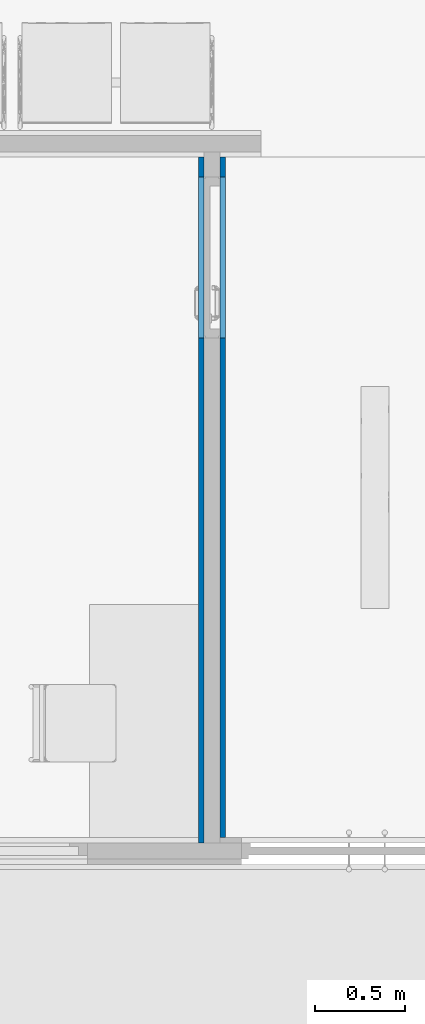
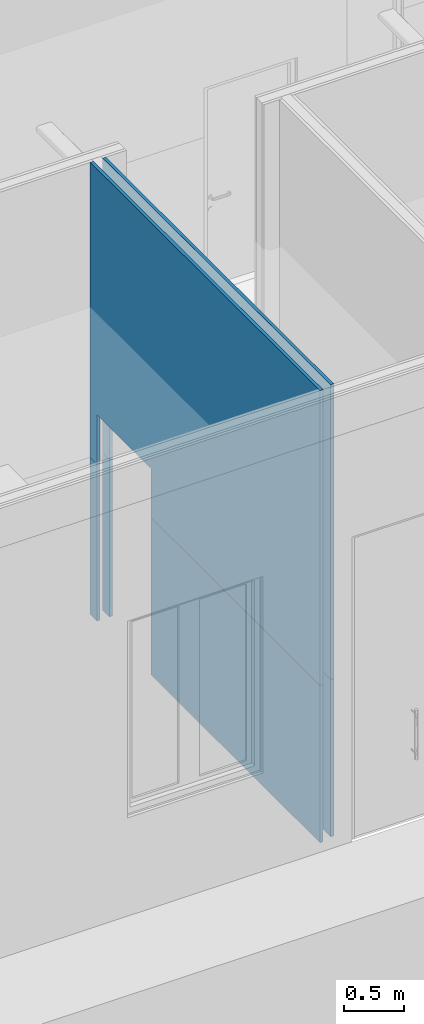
# One storey, part 9 of 155: 4 walls, 4 openings.
"""IFC2X3 building model written with IfcOpenShell, lengths in metres."""

from ifc_helpers import new_model, entity, si_unit, converted_unit, derived_unit, direction, frame, frame_2d, origin, place, context, subcontext, project, spatial, rectangle, extrude, material, layer, layer_set, layer_usage, type_object, element, save


model = new_model("IFC2X3")

# Units and contexts
model_context = context("Model", 3, precision=1e-05, world=origin(), true_north=direction((6.12303176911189e-17, 1.0)))
body_context = subcontext(model_context, "Body", "Model", "MODEL_VIEW")
ifc_project = project(units=[si_unit("LENGTHUNIT", "METRE"), si_unit("AREAUNIT", "SQUARE_METRE"), si_unit("VOLUMEUNIT", "CUBIC_METRE"), converted_unit("PLANEANGLEUNIT", "DEGREE", entity("IfcRatioMeasure", 0.0174532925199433), si_unit("PLANEANGLEUNIT", "RADIAN"), dimensions=[0, 0, 0, 0, 0, 0, 0]), si_unit("MASSUNIT", "GRAM", prefix="KILO"), derived_unit("MASSDENSITYUNIT", [(si_unit("MASSUNIT", "GRAM", prefix="KILO"), 1), (si_unit("LENGTHUNIT", "METRE"), -3)]), si_unit("TIMEUNIT", "SECOND"), si_unit("FREQUENCYUNIT", "HERTZ"), si_unit("THERMODYNAMICTEMPERATUREUNIT", "DEGREE_CELSIUS"), derived_unit("THERMALTRANSMITTANCEUNIT", [(si_unit("MASSUNIT", "GRAM", prefix="KILO"), 1), (si_unit("THERMODYNAMICTEMPERATUREUNIT", "KELVIN"), -1), (si_unit("TIMEUNIT", "SECOND"), -3)]), derived_unit("VOLUMETRICFLOWRATEUNIT", [(si_unit("LENGTHUNIT", "METRE"), 3), (si_unit("TIMEUNIT", "SECOND"), -1)]), si_unit("ELECTRICCURRENTUNIT", "AMPERE"), si_unit("ELECTRICVOLTAGEUNIT", "VOLT"), si_unit("POWERUNIT", "WATT"), si_unit("FORCEUNIT", "NEWTON", prefix="KILO"), si_unit("ILLUMINANCEUNIT", "LUX"), si_unit("LUMINOUSFLUXUNIT", "LUMEN"), si_unit("LUMINOUSINTENSITYUNIT", "CANDELA"), derived_unit("USERDEFINED", [(si_unit("MASSUNIT", "GRAM", prefix="KILO"), -1), (si_unit("LENGTHUNIT", "METRE"), -2), (si_unit("TIMEUNIT", "SECOND"), 3), (si_unit("LUMINOUSFLUXUNIT", "LUMEN"), 1)]), derived_unit("LINEARVELOCITYUNIT", [(si_unit("LENGTHUNIT", "METRE"), 1), (si_unit("TIMEUNIT", "SECOND"), -1)]), si_unit("PRESSUREUNIT", "PASCAL"), derived_unit("USERDEFINED", [(si_unit("LENGTHUNIT", "METRE"), -2), (si_unit("MASSUNIT", "GRAM", prefix="KILO"), 1), (si_unit("TIMEUNIT", "SECOND"), -2)])], contexts=[model_context])

# Site, building, storey
site_placement = place(None, frame((26.9889013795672, -17.5624287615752, 0.0)))
site = spatial("IfcSite", under=ifc_project, at=site_placement, Name="Default", CompositionType="ELEMENT")
building_placement = place(site_placement, origin())
building = spatial("IfcBuilding", under=site, at=building_placement, Name="C. C. L. Monsenhor Antônio Sampaio", CompositionType="ELEMENT")
storey_placement = place(building_placement, frame((0.0, 0.0, 1.19999999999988)))
storey = spatial("IfcBuildingStorey", under=building, at=storey_placement, Name="Nível 1.2", CompositionType="ELEMENT", Elevation=1.19999999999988)

# Wall, opening
ifc_material_1 = material(Name=".CERÂMICA 10x10 BRANCA")
ifc_layer_1 = layer(ifc_material_1, 0.0035)
ifc_material_2 = material(Name="Argamassa Colante")
ifc_layer_2 = layer(ifc_material_2, 0.02)
ifc_material_3 = material(Name="4")
ifc_layer_3 = layer(ifc_material_3, 0.0015)
ifc_material_4 = material(Name="3")
ifc_layer_4 = layer(ifc_material_4, 0.005)
ifc_layer_set_1 = layer_set([ifc_layer_1, ifc_layer_2, ifc_layer_3, ifc_layer_4], Name="Parede básica:ECeramica branca 10x10cm")
ifc_layer_usage_1 = layer_usage(ifc_layer_set_1, "AXIS2", "POSITIVE", -0.015)
wall_type_1 = type_object("IfcWallType", Name="Parede básica:ECeramica branca 10x10cm", PredefinedType="STANDARD", material=ifc_layer_set_1)
wall_1_placement = place(storey_placement, frame((-2.17555229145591, -35.5030663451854, 0.0), z_axis=(0.0, 0.0, 1.0), x_axis=(0.0, -1.0, 0.0)))
wall_1 = element("IfcWallStandardCase", 1, at=wall_1_placement, inside=storey, type_object=wall_type_1, material=ifc_layer_usage_1, Name="Parede básica:ECeramica branca 10x10cm", ObjectType="Parede básica:ECeramica branca 10x10cm", context=body_context, shape_type="SweptSolid", body=[
    extrude(rectangle(XDim=3.83000000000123, YDim=0.0300000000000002, at=frame_2d((1.91500000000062, 0.0), x_axis=(-1.0, 0.0))), origin(), (0.0, 0.0, 1.0), 1.6),
])
opening_1_placement = place(wall_1_placement, origin())
element("IfcOpeningElement", 2, at=opening_1_placement, cuts=wall_1, Name="Parede básica:ECeramica branca 10x10cm", ObjectType="Opening", context=body_context, shape_type="SweptSolid", body=[
    extrude(rectangle(XDim=2.09999999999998, YDim=0.899999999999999, at=frame_2d((-3.33066907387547e-16, 2.16493489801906e-15), x_axis=(1.0, 0.0))), frame((0.55999999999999, -1.509, 1.04999999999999), z_axis=(0.0, 1.0, 0.0), x_axis=(0.0, 0.0, 1.0)), (0.0, 0.0, 1.0), 3.048),
])

ifc_layer_usage_2 = layer_usage(ifc_layer_set_1, "AXIS2", "POSITIVE", -0.015)
wall_2_placement = place(storey_placement, frame((-2.05555229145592, -39.3030663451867, 0.0), z_axis=(0.0, 0.0, 1.0), x_axis=(0.0, 1.0, 0.0)))
wall_2 = element("IfcWallStandardCase", 3, at=wall_2_placement, inside=storey, type_object=wall_type_1, material=ifc_layer_usage_2, Name="Parede básica:ECeramica branca 10x10cm", ObjectType="Parede básica:ECeramica branca 10x10cm", context=body_context, shape_type="SweptSolid", body=[
    extrude(rectangle(XDim=3.80000000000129, YDim=0.0300000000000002, at=frame_2d((1.90000000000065, -4.85722573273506e-17), x_axis=(-1.0, 0.0))), origin(), (0.0, 0.0, 1.0), 1.6),
])
opening_2_placement = place(wall_2_placement, origin())
element("IfcOpeningElement", 4, at=opening_2_placement, cuts=wall_2, Name="Parede básica:ECeramica branca 10x10cm", ObjectType="Opening", context=body_context, shape_type="SweptSolid", body=[
    extrude(rectangle(XDim=2.09999999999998, YDim=0.899999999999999, at=frame_2d((2.16493489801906e-15, 0.0), x_axis=(0.0, 1.0))), frame((3.24000000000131, -1.419, 1.04999999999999), z_axis=(0.0, 1.0, 0.0), x_axis=(-1.0, 0.0, 0.0)), (0.0, 0.0, 1.0), 3.048),
])

ifc_material_5 = material(Name="Acabamento Branco")
ifc_layer_5 = layer(ifc_material_5, 0.0035)
ifc_material_6 = material(Name="Massa corrida")
ifc_layer_6 = layer(ifc_material_6, 0.02)
ifc_layer_7 = layer(ifc_material_3, 0.0015)
ifc_layer_8 = layer(ifc_material_4, 0.005)
ifc_layer_set_2 = layer_set([ifc_layer_5, ifc_layer_6, ifc_layer_7, ifc_layer_8], Name="Parede básica:EPintura Branca")
ifc_layer_usage_3 = layer_usage(ifc_layer_set_2, "AXIS2", "POSITIVE", -0.015)
wall_type_2 = type_object("IfcWallType", Name="Parede básica:EPintura Branca", PredefinedType="STANDARD", material=ifc_layer_set_2)
wall_3_placement = place(storey_placement, frame((-2.17555229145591, -35.5030663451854, 1.6), z_axis=(0.0, 0.0, 1.0), x_axis=(0.0, -1.0, 0.0)))
wall_3 = element("IfcWallStandardCase", 5, at=wall_3_placement, inside=storey, type_object=wall_type_2, material=ifc_layer_usage_3, Name="Parede básica:EPintura Branca", ObjectType="Parede básica:EPintura Branca", context=body_context, shape_type="SweptSolid", body=[
    extrude(rectangle(XDim=3.83000000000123, YDim=0.0300000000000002, at=frame_2d((1.91500000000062, 0.0), x_axis=(-1.0, 0.0))), origin(), (0.0, 0.0, 1.0), 3.00000000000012),
])
opening_3_placement = place(wall_3_placement, origin())
element("IfcOpeningElement", 6, at=opening_3_placement, cuts=wall_3, Name="Parede básica:EPintura Branca", ObjectType="Opening", context=body_context, shape_type="SweptSolid", body=[
    extrude(rectangle(XDim=2.09999999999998, YDim=0.899999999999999, at=frame_2d((-3.33066907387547e-16, 2.16493489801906e-15), x_axis=(1.0, 0.0))), frame((0.55999999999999, -1.509, -0.550000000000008), z_axis=(0.0, 1.0, 0.0), x_axis=(0.0, 0.0, 1.0)), (0.0, 0.0, 1.0), 3.048),
])

ifc_layer_usage_4 = layer_usage(ifc_layer_set_2, "AXIS2", "POSITIVE", -0.015)
wall_4_placement = place(storey_placement, frame((-2.05555229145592, -39.3030663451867, 1.6), z_axis=(0.0, 0.0, 1.0), x_axis=(0.0, 1.0, 0.0)))
wall_4 = element("IfcWallStandardCase", 7, at=wall_4_placement, inside=storey, type_object=wall_type_2, material=ifc_layer_usage_4, Name="Parede básica:EPintura Branca", ObjectType="Parede básica:EPintura Branca", context=body_context, shape_type="SweptSolid", body=[
    extrude(rectangle(XDim=3.80000000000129, YDim=0.0300000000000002, at=frame_2d((1.90000000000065, -4.85722573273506e-17), x_axis=(-1.0, 0.0))), origin(), (0.0, 0.0, 1.0), 3.00000000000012),
])
opening_4_placement = place(wall_4_placement, origin())
element("IfcOpeningElement", 8, at=opening_4_placement, cuts=wall_4, Name="Parede básica:EPintura Branca", ObjectType="Opening", context=body_context, shape_type="SweptSolid", body=[
    extrude(rectangle(XDim=2.09999999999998, YDim=0.899999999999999, at=frame_2d((2.16493489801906e-15, 0.0), x_axis=(0.0, 1.0))), frame((3.24000000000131, -1.419, -0.550000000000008), z_axis=(0.0, 1.0, 0.0), x_axis=(-1.0, 0.0, 0.0)), (0.0, 0.0, 1.0), 3.048),
])

save(model, "model.ifc")
